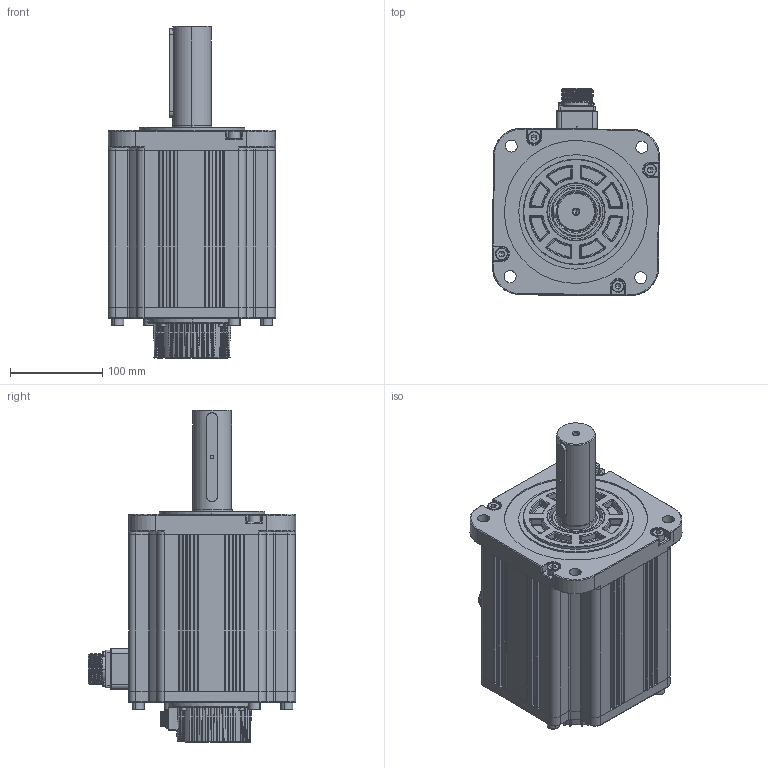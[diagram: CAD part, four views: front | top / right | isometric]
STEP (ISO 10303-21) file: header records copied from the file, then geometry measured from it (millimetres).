
FILE_DESCRIPTION (( 'STEP AP214' ), '1' );
FILE_NAME ('106.5长铁芯 无刹车 B出轴.STEP', '2021-10-26T08:32:15', ( '' ), ( '' ), 'SwSTEP 2.0', 'SolidWorks 2014', '' );
FILE_SCHEMA (( 'AUTOMOTIVE_DESIGN' ));
Length unit declared in the file: millimetre
Products named in the file (16): SCSC瑤諾脣芛 16M-9H; SCCMS3102A22-22P-Z; 埴芛囀鞠褒 ISO 4762 M8 x 30 --- 30N; 埴芛囀鞠褒 ISO 4762 M3 x 10 --- 10N; 180粣-47沺郋; 坋趼攫芛蹟佪 M2X8-8  H type-N; 106.5长铁芯 无刹车 B出轴; SC180瑤脣釱1015; 180儂褲169.5; SC蚐猾 D00B999YF8-TC 44-62-10; 埴芛囀鞠褒 ISO 4762 M3 x 30 --- 18N; SC180ヶ傷裔1009; す瑩^180#陔萇儂-拸价陬 201021; 180#綴傷裔; 180#陔隅赽201019; SC晤鎢ん欶200908_10郋
Assembly tree (31 placements, depth 3):
  106.5长铁芯 无刹车 B出轴
    180#陔隅赽201019
      SC180ヶ傷裔1009
      SCCMS3102A22-22P-Z
      SC180瑤脣釱1015
      180儂褲169.5
    SC晤鎢ん欶200908_10郋
    SCSC瑤諾脣芛 16M-9H
    SC蚐猾 D00B999YF8-TC 44-62-10
    坋趼攫芛蹟佪 M2X8-8  H type-N  x4
    埴芛囀鞠褒 ISO 4762 M3 x 10 --- 10N  x4
    埴芛囀鞠褒 ISO 4762 M8 x 30 --- 30N  x8
    埴芛囀鞠褒 ISO 4762 M3 x 30 --- 18N  x4
    180粣-47沺郋
    180#綴傷裔
    す瑩^180#陔萇儂-拸价陬 201021
Bounding box: 181.11 x 224.8 x 359.5 mm (x, y, z)
Volume: 2144243.4 mm3; surface area: 561394.9 mm2
Topology: 30 solids, 30 shells, 3132 faces, 7601 edges, 4430 vertices
Faces by surface type: cylinder 1021, plane 762, torus 465, bspline 440, cone 255, sphere 189
Entity records: 130238 total; most frequent: CARTESIAN_POINT 42158, ORIENTED_EDGE 12846, DIRECTION 12554, EDGE_CURVE 6423, AXIS2_PLACEMENT_3D 5242, VERTEX_POINT 3838, EDGE_LOOP 2893, CIRCLE 2883
